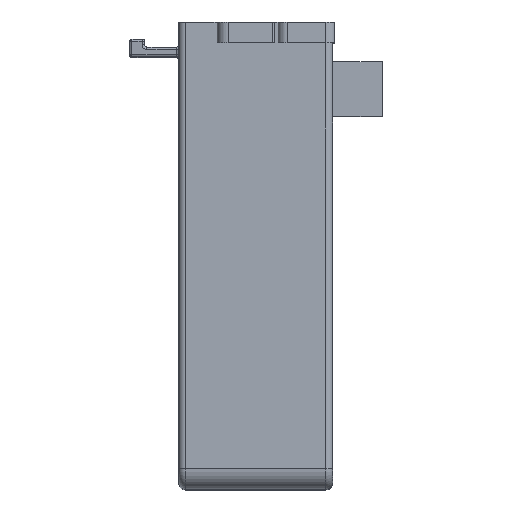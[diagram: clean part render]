
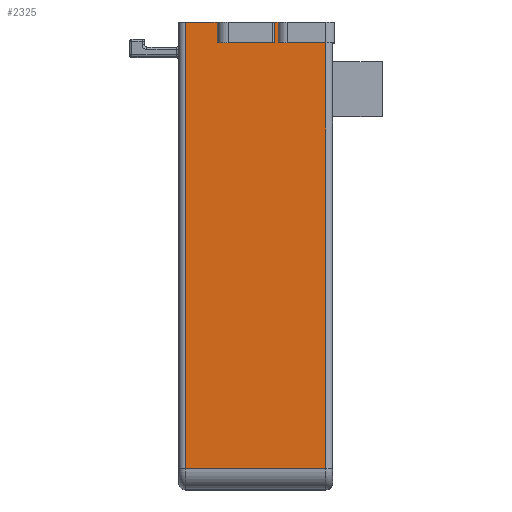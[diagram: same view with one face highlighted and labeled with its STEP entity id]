
A CAD part, top view. The second image highlights one B-rep face of the part: STEP entity #2325.
In plain terms, the highlighted planar face has unit normal (0, 0, 1).
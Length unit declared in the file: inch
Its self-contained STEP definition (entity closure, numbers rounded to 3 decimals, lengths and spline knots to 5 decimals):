
#321=DIRECTION('',(-1.,0.,0.));
#322=VECTOR('',#321,0.10613);
#323=CARTESIAN_POINT('',(0.62,-0.18346,2.32283));
#324=LINE('',#323,#322);
#325=DIRECTION('',(0.,-1.,0.));
#326=VECTOR('',#325,3.76252);
#327=CARTESIAN_POINT('',(0.62,-0.18346,2.32283));
#328=LINE('',#327,#326);
#329=DIRECTION('',(-1.,0.,0.));
#330=VECTOR('',#329,1.24);
#331=CARTESIAN_POINT('',(0.62,-3.94598,2.32283));
#332=LINE('',#331,#330);
#333=DIRECTION('',(0.,1.,0.));
#334=VECTOR('',#333,3.94598);
#335=CARTESIAN_POINT('',(-0.62,-3.94598,2.32283));
#336=LINE('',#335,#334);
#337=DIRECTION('',(1.,0.,0.));
#338=VECTOR('',#337,0.27918);
#339=CARTESIAN_POINT('',(-0.62,0.,2.32283));
#340=LINE('',#339,#338);
#341=DIRECTION('',(0.,-1.,0.));
#342=VECTOR('',#341,0.18346);
#343=CARTESIAN_POINT('',(-0.34082,0.,2.32283));
#344=LINE('',#343,#342);
#345=DIRECTION('',(-1.,0.,0.));
#346=VECTOR('',#345,0.5096);
#347=CARTESIAN_POINT('',(0.16878,-0.18346,
2.32283));
#348=LINE('',#347,#346);
#349=DIRECTION('',(0.,-1.,0.));
#350=VECTOR('',#349,0.18346);
#351=CARTESIAN_POINT('',(0.16878,0.,2.32283));
#352=LINE('',#351,#350);
#353=DIRECTION('',(1.,0.,0.));
#354=VECTOR('',#353,0.02992);
#355=CARTESIAN_POINT('',(0.16878,0.,2.32283));
#356=LINE('',#355,#354);
#357=DIRECTION('',(0.,-1.,0.));
#358=VECTOR('',#357,0.18346);
#359=CARTESIAN_POINT('',(0.1987,0.,2.32283));
#360=LINE('',#359,#358);
#361=DIRECTION('',(-1.,0.,0.));
#362=VECTOR('',#361,0.22602);
#363=CARTESIAN_POINT('',(0.42472,-0.18346,
2.32283));
#364=LINE('',#363,#362);
#365=DIRECTION('',(0.,1.,0.));
#366=VECTOR('',#365,0.18346);
#367=CARTESIAN_POINT('',(0.42472,-0.18346,
2.32283));
#368=LINE('',#367,#366);
#369=DIRECTION('',(1.,0.,0.));
#370=VECTOR('',#369,0.08915);
#371=CARTESIAN_POINT('',(0.42472,0.,2.32283));
#372=LINE('',#371,#370);
#373=DIRECTION('',(0.,1.,0.));
#374=VECTOR('',#373,0.18346);
#375=CARTESIAN_POINT('',(0.51387,-0.18346,
2.32283));
#376=LINE('',#375,#374);
#1697=CARTESIAN_POINT('',(-0.62,0.,2.32283));
#1699=VERTEX_POINT('',#1697);
#1700=CARTESIAN_POINT('',(-0.62,-3.94598,2.32283));
#1701=VERTEX_POINT('',#1700);
#1724=CARTESIAN_POINT('',(0.62,-3.94598,2.32283));
#1725=VERTEX_POINT('',#1724);
#2008=CARTESIAN_POINT('',(0.62,-0.18346,2.32283));
#2009=CARTESIAN_POINT('',(0.51387,-0.18346,
2.32283));
#2010=VERTEX_POINT('',#2008);
#2011=VERTEX_POINT('',#2009);
#2012=CARTESIAN_POINT('',(0.42472,-0.18346,
2.32283));
#2013=CARTESIAN_POINT('',(0.1987,-0.18346,
2.32283));
#2014=VERTEX_POINT('',#2012);
#2015=VERTEX_POINT('',#2013);
#2016=CARTESIAN_POINT('',(0.16878,-0.18346,
2.32283));
#2017=CARTESIAN_POINT('',(-0.34082,-0.18346,
2.32283));
#2018=VERTEX_POINT('',#2016);
#2019=VERTEX_POINT('',#2017);
#2020=CARTESIAN_POINT('',(0.1987,0.,2.32283));
#2021=VERTEX_POINT('',#2020);
#2022=CARTESIAN_POINT('',(0.42472,0.,2.32283));
#2023=VERTEX_POINT('',#2022);
#2024=CARTESIAN_POINT('',(0.51387,0.,2.32283));
#2025=VERTEX_POINT('',#2024);
#2026=CARTESIAN_POINT('',(0.16878,0.,2.32283));
#2027=VERTEX_POINT('',#2026);
#2028=CARTESIAN_POINT('',(-0.34082,0.,2.32283));
#2029=VERTEX_POINT('',#2028);
#2295=CARTESIAN_POINT('',(-0.68,0.,2.32283));
#2296=DIRECTION('',(0.,0.,1.));
#2297=DIRECTION('',(0.,-1.,0.));
#2298=AXIS2_PLACEMENT_3D('',#2295,#2296,#2297);
#2299=PLANE('',#2298);
#2301=ORIENTED_EDGE('',*,*,#2300,.F.);
#2303=ORIENTED_EDGE('',*,*,#2302,.T.);
#2305=ORIENTED_EDGE('',*,*,#2304,.T.);
#2306=ORIENTED_EDGE('',*,*,#2167,.T.);
#2307=ORIENTED_EDGE('',*,*,#2194,.T.);
#2309=ORIENTED_EDGE('',*,*,#2308,.T.);
#2311=ORIENTED_EDGE('',*,*,#2310,.F.);
#2313=ORIENTED_EDGE('',*,*,#2312,.F.);
#2314=ORIENTED_EDGE('',*,*,#2182,.T.);
#2315=ORIENTED_EDGE('',*,*,#2285,.T.);
#2317=ORIENTED_EDGE('',*,*,#2316,.F.);
#2319=ORIENTED_EDGE('',*,*,#2318,.T.);
#2320=ORIENTED_EDGE('',*,*,#2216,.T.);
#2322=ORIENTED_EDGE('',*,*,#2321,.F.);
#2323=EDGE_LOOP('',(#2301,#2303,#2305,#2306,#2307,#2309,#2311,#2313,#2314,#2315,
#2317,#2319,#2320,#2322));
#2324=FACE_OUTER_BOUND('',#2323,.F.);
#2325=ADVANCED_FACE('',(#2324),#2299,.T.);
#2167=EDGE_CURVE('',#1701,#1699,#336,.T.);
#2182=EDGE_CURVE('',#2027,#2021,#356,.T.);
#2194=EDGE_CURVE('',#1699,#2029,#340,.T.);
#2216=EDGE_CURVE('',#2023,#2025,#372,.T.);
#2285=EDGE_CURVE('',#2021,#2015,#360,.T.);
#2300=EDGE_CURVE('',#2010,#2011,#324,.T.);
#2302=EDGE_CURVE('',#2010,#1725,#328,.T.);
#2304=EDGE_CURVE('',#1725,#1701,#332,.T.);
#2308=EDGE_CURVE('',#2029,#2019,#344,.T.);
#2310=EDGE_CURVE('',#2018,#2019,#348,.T.);
#2312=EDGE_CURVE('',#2027,#2018,#352,.T.);
#2316=EDGE_CURVE('',#2014,#2015,#364,.T.);
#2318=EDGE_CURVE('',#2014,#2023,#368,.T.);
#2321=EDGE_CURVE('',#2011,#2025,#376,.T.);
